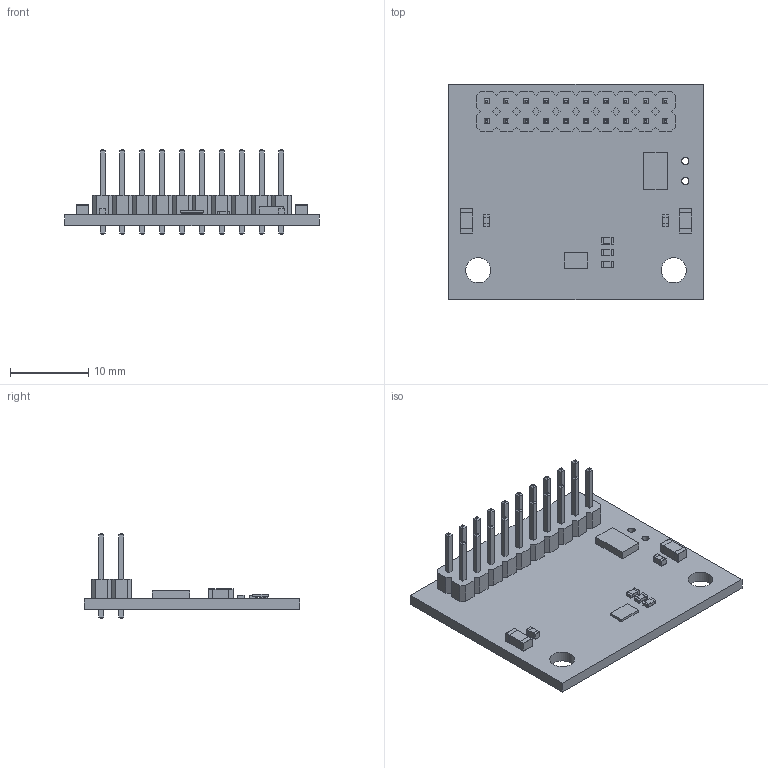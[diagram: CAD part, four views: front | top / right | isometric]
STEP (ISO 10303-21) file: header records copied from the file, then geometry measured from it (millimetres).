
FILE_DESCRIPTION(/* description */ (''),/* implementation_level */ '2;1');
FILE_NAME(/* name */ 'FH3D02_Solder-PCB_V1.0R1.brd.stp',/* time_stamp */ '2024-02-28T17:36:38+01:00',/* author */ ('tis'),/* organization */ (''),/* preprocessor_version */ 'ST-DEVELOPER v20',/* originating_system */ 'Autodesk Inventor 2024',/* authorisation */ '');
FILE_SCHEMA (('AUTOMOTIVE_DESIGN { 1 0 10303 214 3 1 1 }'));
Length unit declared in the file: millimetre
Products named in the file (8): FH3D02_Solder-PCB_V1.0R1.brd; FH3D02_Solder-PCB_V1.0R1.brd_Kontur; C0603X'_INCH; C1206D_INCH; FH5401C; tbd; R0603_INCH; MA10-2
Assembly tree (11 placements, depth 2):
  FH3D02_Solder-PCB_V1.0R1.brd
    FH3D02_Solder-PCB_V1.0R1.brd_Kontur
    C0603X'_INCH  x2
    C1206D_INCH  x2
    FH5401C
    tbd
    R0603_INCH  x3
    MA10-2
Bounding box: 32.5 x 27.5 x 10.8 mm (x, y, z)
Volume: 1600.7 mm3; surface area: 3032.4 mm2
Topology: 11 solids, 11 shells, 1034 faces, 2405 edges, 1384 vertices
Faces by surface type: plane 742, cylinder 220, sphere 72
Full cylindrical faces by diameter (mm): 0.3 x16, 0.32 x40, 0.914 x2, 1.016 x20, 3.2 x2
Entity records: 24993 total; most frequent: CARTESIAN_POINT 4141, DIRECTION 4122, ORIENTED_EDGE 3920, EDGE_CURVE 1960, LINE 1544, VECTOR 1544, AXIS2_PLACEMENT_3D 1289, VERTEX_POINT 1164
